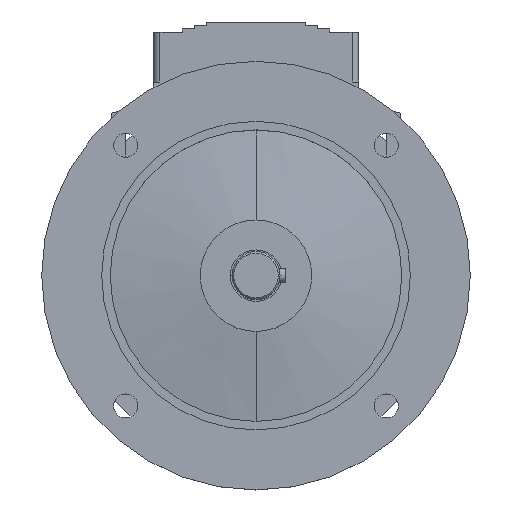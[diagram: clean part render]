
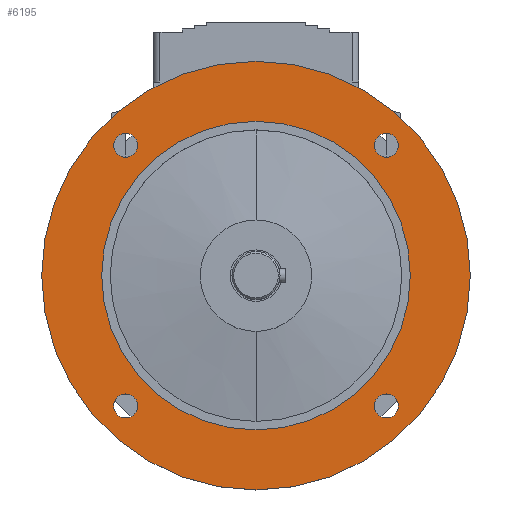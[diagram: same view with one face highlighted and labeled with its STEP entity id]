
A CAD part, top view. The second image highlights one B-rep face of the part: STEP entity #6195.
In plain terms, the highlighted planar face has unit normal (0, 0, 1).
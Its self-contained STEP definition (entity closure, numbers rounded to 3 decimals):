
#1364=CARTESIAN_POINT('',(-76.014,76.014,38.));
#1365=DIRECTION('',(0.,0.,-1.));
#1366=DIRECTION('',(-1.,0.,0.));
#1367=AXIS2_PLACEMENT_3D('',#1364,#1365,#1366);
#1369=CARTESIAN_POINT('',(-76.014,76.014,38.));
#1370=DIRECTION('',(0.,0.,-1.));
#1371=DIRECTION('',(1.,0.,0.));
#1372=AXIS2_PLACEMENT_3D('',#1369,#1370,#1371);
#1374=CARTESIAN_POINT('',(-76.014,-76.014,38.));
#1375=DIRECTION('',(0.,0.,-1.));
#1376=DIRECTION('',(-1.,0.,0.));
#1377=AXIS2_PLACEMENT_3D('',#1374,#1375,#1376);
#1379=CARTESIAN_POINT('',(-76.014,-76.014,38.));
#1380=DIRECTION('',(0.,0.,-1.));
#1381=DIRECTION('',(1.,0.,0.));
#1382=AXIS2_PLACEMENT_3D('',#1379,#1380,#1381);
#1384=CARTESIAN_POINT('',(76.014,-76.014,38.));
#1385=DIRECTION('',(0.,0.,-1.));
#1386=DIRECTION('',(-1.,0.,0.));
#1387=AXIS2_PLACEMENT_3D('',#1384,#1385,#1386);
#1389=CARTESIAN_POINT('',(76.014,-76.014,38.));
#1390=DIRECTION('',(0.,0.,-1.));
#1391=DIRECTION('',(1.,0.,0.));
#1392=AXIS2_PLACEMENT_3D('',#1389,#1390,#1391);
#1394=CARTESIAN_POINT('',(0.,0.,38.));
#1395=DIRECTION('',(0.,0.,1.));
#1396=DIRECTION('',(0.,1.,0.));
#1397=AXIS2_PLACEMENT_3D('',#1394,#1395,#1396);
#1399=CARTESIAN_POINT('',(0.,0.,38.));
#1400=DIRECTION('',(0.,0.,-1.));
#1401=DIRECTION('',(0.,1.,0.));
#1402=AXIS2_PLACEMENT_3D('',#1399,#1400,#1401);
#1404=CARTESIAN_POINT('',(76.014,76.014,38.));
#1405=DIRECTION('',(0.,0.,-1.));
#1406=DIRECTION('',(-1.,0.,0.));
#1407=AXIS2_PLACEMENT_3D('',#1404,#1405,#1406);
#1409=CARTESIAN_POINT('',(76.014,76.014,38.));
#1410=DIRECTION('',(0.,0.,-1.));
#1411=DIRECTION('',(1.,0.,0.));
#1412=AXIS2_PLACEMENT_3D('',#1409,#1410,#1411);
#1434=CARTESIAN_POINT('',(0.,0.,38.));
#1435=DIRECTION('',(0.,0.,-1.));
#1436=DIRECTION('',(0.,1.,0.));
#1437=AXIS2_PLACEMENT_3D('',#1434,#1435,#1436);
#1447=CARTESIAN_POINT('',(0.,0.,38.));
#1448=DIRECTION('',(0.,0.,1.));
#1449=DIRECTION('',(0.,1.,0.));
#1450=AXIS2_PLACEMENT_3D('',#1447,#1448,#1449);
#3365=CARTESIAN_POINT('',(0.,125.,38.));
#3367=VERTEX_POINT('',#3365);
#3368=CARTESIAN_POINT('',(0.,90.,38.));
#3370=VERTEX_POINT('',#3368);
#3373=CARTESIAN_POINT('',(0.,-125.,38.));
#3375=VERTEX_POINT('',#3373);
#3376=CARTESIAN_POINT('',(0.,-90.,38.));
#3378=VERTEX_POINT('',#3376);
#3384=CARTESIAN_POINT('',(69.014,76.014,38.));
#3385=CARTESIAN_POINT('',(83.014,76.014,38.));
#3386=VERTEX_POINT('',#3384);
#3387=VERTEX_POINT('',#3385);
#3392=CARTESIAN_POINT('',(69.014,-76.014,38.));
#3393=CARTESIAN_POINT('',(83.014,-76.014,38.));
#3394=VERTEX_POINT('',#3392);
#3395=VERTEX_POINT('',#3393);
#3400=CARTESIAN_POINT('',(-83.014,-76.014,38.));
#3401=CARTESIAN_POINT('',(-69.014,-76.014,38.));
#3402=VERTEX_POINT('',#3400);
#3403=VERTEX_POINT('',#3401);
#3408=CARTESIAN_POINT('',(-83.014,76.014,38.));
#3409=CARTESIAN_POINT('',(-69.014,76.014,38.));
#3410=VERTEX_POINT('',#3408);
#3411=VERTEX_POINT('',#3409);
#6155=CARTESIAN_POINT('',(0.,0.,38.));
#6156=DIRECTION('',(0.,0.,-1.));
#6157=DIRECTION('',(0.,-1.,0.));
#6158=AXIS2_PLACEMENT_3D('',#6155,#6156,#6157);
#6159=PLANE('',#6158);
#6161=ORIENTED_EDGE('',*,*,#6160,.F.);
#6163=ORIENTED_EDGE('',*,*,#6162,.T.);
#6164=EDGE_LOOP('',(#6161,#6163));
#6165=FACE_OUTER_BOUND('',#6164,.F.);
#6166=ORIENTED_EDGE('',*,*,#6145,.F.);
#6168=ORIENTED_EDGE('',*,*,#6167,.F.);
#6169=EDGE_LOOP('',(#6166,#6168));
#6170=FACE_BOUND('',#6169,.F.);
#6172=ORIENTED_EDGE('',*,*,#6171,.F.);
#6174=ORIENTED_EDGE('',*,*,#6173,.F.);
#6175=EDGE_LOOP('',(#6172,#6174));
#6176=FACE_BOUND('',#6175,.F.);
#6178=ORIENTED_EDGE('',*,*,#6177,.F.);
#6180=ORIENTED_EDGE('',*,*,#6179,.F.);
#6181=EDGE_LOOP('',(#6178,#6180));
#6182=FACE_BOUND('',#6181,.F.);
#6184=ORIENTED_EDGE('',*,*,#6183,.F.);
#6186=ORIENTED_EDGE('',*,*,#6185,.T.);
#6187=EDGE_LOOP('',(#6184,#6186));
#6188=FACE_BOUND('',#6187,.F.);
#6190=ORIENTED_EDGE('',*,*,#6189,.F.);
#6192=ORIENTED_EDGE('',*,*,#6191,.F.);
#6193=EDGE_LOOP('',(#6190,#6192));
#6194=FACE_BOUND('',#6193,.F.);
#6195=ADVANCED_FACE('',(#6165,#6170,#6176,#6182,#6188,#6194),#6159,.F.);
#1368=CIRCLE('',#1367,7.);
#1373=CIRCLE('',#1372,7.);
#1378=CIRCLE('',#1377,7.);
#1383=CIRCLE('',#1382,7.);
#1388=CIRCLE('',#1387,7.);
#1393=CIRCLE('',#1392,7.);
#1398=CIRCLE('',#1397,125.);
#1403=CIRCLE('',#1402,125.);
#1408=CIRCLE('',#1407,7.);
#1413=CIRCLE('',#1412,7.);
#1438=CIRCLE('',#1437,90.);
#1451=CIRCLE('',#1450,90.);
#6145=EDGE_CURVE('',#3410,#3411,#1368,.T.);
#6160=EDGE_CURVE('',#3367,#3375,#1398,.T.);
#6162=EDGE_CURVE('',#3367,#3375,#1403,.T.);
#6167=EDGE_CURVE('',#3411,#3410,#1373,.T.);
#6171=EDGE_CURVE('',#3402,#3403,#1378,.T.);
#6173=EDGE_CURVE('',#3403,#3402,#1383,.T.);
#6177=EDGE_CURVE('',#3394,#3395,#1388,.T.);
#6179=EDGE_CURVE('',#3395,#3394,#1393,.T.);
#6183=EDGE_CURVE('',#3370,#3378,#1438,.T.);
#6185=EDGE_CURVE('',#3370,#3378,#1451,.T.);
#6189=EDGE_CURVE('',#3386,#3387,#1408,.T.);
#6191=EDGE_CURVE('',#3387,#3386,#1413,.T.);
